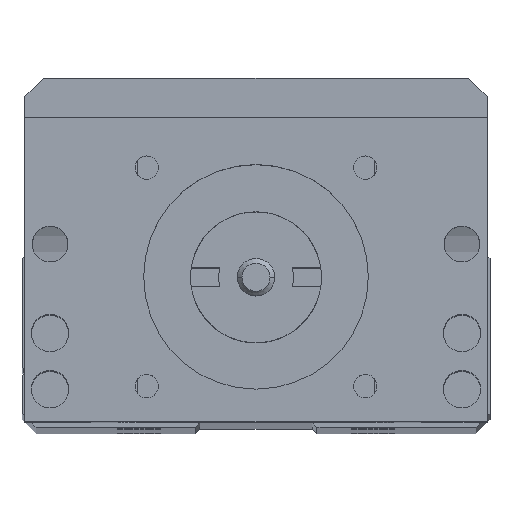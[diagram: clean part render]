
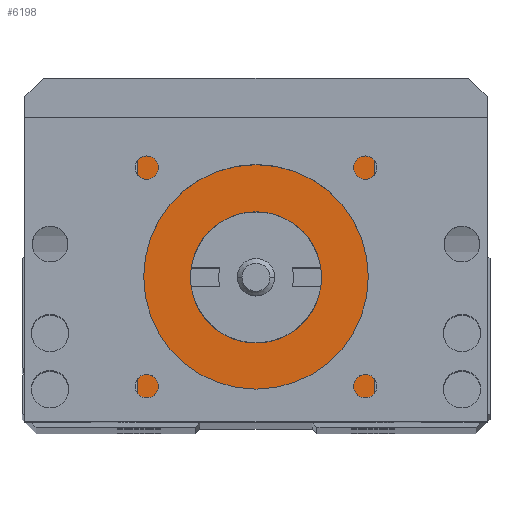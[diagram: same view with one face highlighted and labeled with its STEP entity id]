
A CAD part, top view. The second image highlights one B-rep face of the part: STEP entity #6198.
In plain terms, the highlighted planar face has unit normal (0, 0, 1).
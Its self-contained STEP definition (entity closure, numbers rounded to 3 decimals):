
#188 = FACE_OUTER_BOUND ( 'NONE', #6134, .T. ) ;
#213 = DIRECTION ( 'NONE',  ( 0., 0., -1. ) ) ;
#217 = PLANE ( 'NONE',  #227 ) ;
#226 = FACE_BOUND ( 'NONE', #6183, .T. ) ;
#227 = AXIS2_PLACEMENT_3D ( 'NONE', #231, #213, #485 ) ;
#231 = CARTESIAN_POINT ( 'NONE',  ( -14.7, 0., 211.5 ) ) ;
#344 = DIRECTION ( 'NONE',  ( 0., 1., 0. ) ) ;
#345 = VECTOR ( 'NONE', #344, 1000. ) ;
#346 = CARTESIAN_POINT ( 'NONE',  ( 12.7, 33., 211.5 ) ) ;
#348 = LINE ( 'NONE', #346, #345 ) ;
#401 = CARTESIAN_POINT ( 'NONE',  ( 12.7, 0.5, 211.5 ) ) ;
#404 = DIRECTION ( 'NONE',  ( -1., 0., 0. ) ) ;
#405 = VECTOR ( 'NONE', #404, 1000. ) ;
#406 = CARTESIAN_POINT ( 'NONE',  ( -6.008, 0.5, 211.5 ) ) ;
#407 = LINE ( 'NONE', #406, #405 ) ;
#409 = CARTESIAN_POINT ( 'NONE',  ( 0., 16., 211.5 ) ) ;
#443 = VECTOR ( 'NONE', #504, 1000. ) ;
#444 = CARTESIAN_POINT ( 'NONE',  ( -12.7, 0.5, 211.5 ) ) ;
#445 = LINE ( 'NONE', #444, #443 ) ;
#448 = CARTESIAN_POINT ( 'NONE',  ( -12.7, 33., 211.5 ) ) ;
#449 = DIRECTION ( 'NONE',  ( -1., 0., 0. ) ) ;
#450 = VECTOR ( 'NONE', #449, 1000. ) ;
#451 = AXIS2_PLACEMENT_3D ( 'NONE', #409, #453, #497 ) ;
#452 = CIRCLE ( 'NONE', #451, 7. ) ;
#453 = DIRECTION ( 'NONE',  ( 0., 0., 1. ) ) ;
#461 = CARTESIAN_POINT ( 'NONE',  ( -14.7, 33., 211.5 ) ) ;
#462 = LINE ( 'NONE', #461, #450 ) ;
#485 = DIRECTION ( 'NONE',  ( -1., 0., 0. ) ) ;
#497 = DIRECTION ( 'NONE',  ( -1., 0., 0. ) ) ;
#504 = DIRECTION ( 'NONE',  ( 0., -1., 0. ) ) ;
#532 = CARTESIAN_POINT ( 'NONE',  ( -12.7, 0.5, 211.5 ) ) ;
#2909 = CARTESIAN_POINT ( 'NONE',  ( 0., 16., 211.5 ) ) ;
#2911 = CARTESIAN_POINT ( 'NONE',  ( -7., 16., 211.5 ) ) ;
#2916 = AXIS2_PLACEMENT_3D ( 'NONE', #2909, #2958, #2957 ) ;
#2923 = CIRCLE ( 'NONE', #2916, 7. ) ;
#2957 = DIRECTION ( 'NONE',  ( -1., 0., 0. ) ) ;
#2958 = DIRECTION ( 'NONE',  ( 0., 0., 1. ) ) ;
#3037 = CARTESIAN_POINT ( 'NONE',  ( 7., 16., 211.5 ) ) ;
#5847 = VERTEX_POINT ( 'NONE', #9287 ) ;
#6068 = ORIENTED_EDGE ( 'NONE', *, *, #6178, .T. ) ;
#6122 = EDGE_CURVE ( 'NONE', #6139, #5847, #348, .T. ) ;
#6123 = EDGE_CURVE ( 'NONE', #6139, #6199, #407, .T. ) ;
#6134 = EDGE_LOOP ( 'NONE', ( #6197, #6200, #6068, #6182 ) ) ;
#6139 = VERTEX_POINT ( 'NONE', #401 ) ;
#6178 = EDGE_CURVE ( 'NONE', #5847, #6181, #462, .T. ) ;
#6180 = ORIENTED_EDGE ( 'NONE', *, *, #7608, .F. ) ;
#6181 = VERTEX_POINT ( 'NONE', #448 ) ;
#6182 = ORIENTED_EDGE ( 'NONE', *, *, #6185, .T. ) ;
#6183 = EDGE_LOOP ( 'NONE', ( #6189, #6180 ) ) ;
#6185 = EDGE_CURVE ( 'NONE', #6181, #6199, #445, .T. ) ;
#6187 = EDGE_CURVE ( 'NONE', #7607, #7687, #452, .T. ) ;
#6189 = ORIENTED_EDGE ( 'NONE', *, *, #6187, .F. ) ;
#6197 = ORIENTED_EDGE ( 'NONE', *, *, #6123, .F. ) ;
#6198 = ADVANCED_FACE ( 'NONE', ( #188, #226 ), #217, .F. ) ;
#6199 = VERTEX_POINT ( 'NONE', #532 ) ;
#6200 = ORIENTED_EDGE ( 'NONE', *, *, #6122, .T. ) ;
#7607 = VERTEX_POINT ( 'NONE', #2911 ) ;
#7608 = EDGE_CURVE ( 'NONE', #7687, #7607, #2923, .T. ) ;
#7687 = VERTEX_POINT ( 'NONE', #3037 ) ;
#9287 = CARTESIAN_POINT ( 'NONE',  ( 12.7, 33., 211.5 ) ) ;
